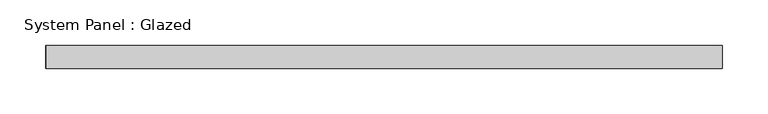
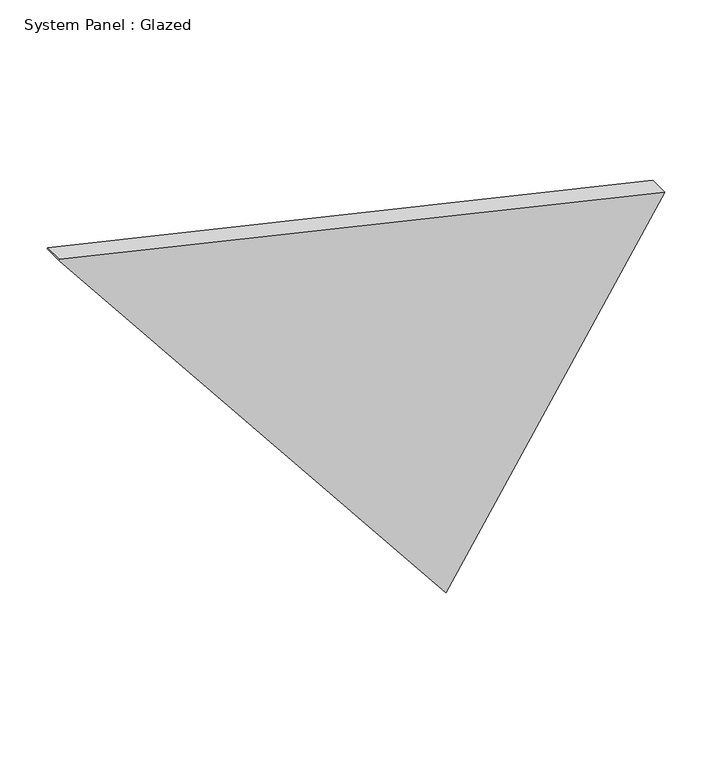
"""IFC4 building model written with IfcOpenShell, lengths in millimetres: plate geometry, System Panel : Glazed."""

from ifc_helpers import new_model, si_unit, frame, origin, place, context, project, spatial, polyline, outline, extrude, source, transform, mapped, element, save


def system_panel_glazed_5800e615(model_context):
    return source(origin(), model_context, "Body", "SweptSolid", [
        extrude(outline(polyline([(0.0, 102.9848946), (425.4675442, 371.9407582), (598.388679, -371.0450478), (596.971734, -371.9407582), (0.0, 102.9848946)])), frame((0.0, -44.45, 0.0), z_axis=(0.0, 1.0, 0.0), x_axis=(0.0, 0.0, 1.0)), (0.0, 0.0, 1.0), 25.4),
    ])


if __name__ == "__main__":
    model = new_model("IFC4")
    model_context = context("Model", 3, world=origin())
    ifc_project = project(units=[si_unit("LENGTHUNIT", "METRE", prefix="MILLI")], contexts=[model_context])
    site = spatial("IfcSite", under=ifc_project)
    building = spatial("IfcBuilding", under=site)
    placement = place(None, origin())
    system_panel_glazed_shape = system_panel_glazed_5800e615(model_context)
    element("IfcPlate", 1, ObjectType="System Panel : Glazed", at=placement, inside=building, context=model_context, shape_type="MappedRepresentation", body=[
        mapped(system_panel_glazed_shape, transform((0.0, 0.0, 0.0), x_axis=(1.0, 0.0, 0.0), y_axis=(0.0, 1.0, 0.0), z_axis=(0.0, 0.0, 1.0))),
    ])
    save(model, "model.ifc")
